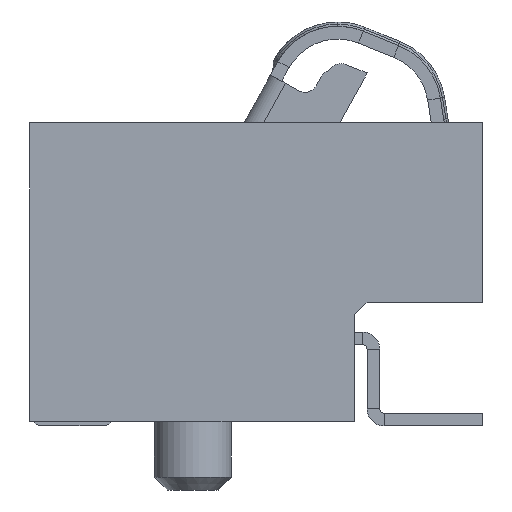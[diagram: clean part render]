
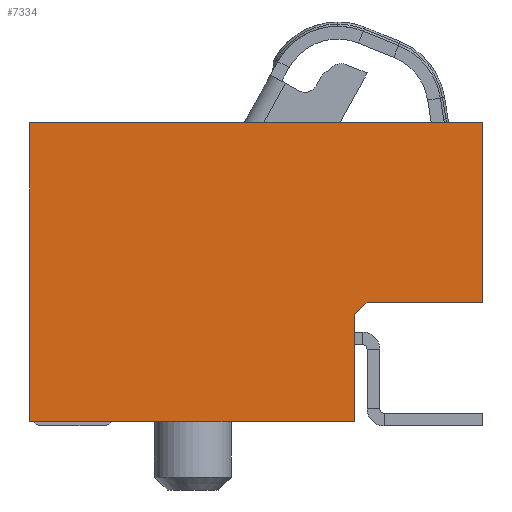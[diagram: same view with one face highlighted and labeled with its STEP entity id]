
A CAD part, front view. The second image highlights one B-rep face of the part: STEP entity #7334.
In plain terms, the highlighted planar face has unit normal (0, -1, 0).
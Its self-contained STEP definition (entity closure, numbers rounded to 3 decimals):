
#38 = DIRECTION ( 'NONE',  ( 0.707, 0., 0.707 ) ) ;
#1055 = EDGE_CURVE ( 'NONE', #28813, #31256, #28866, .T. ) ;
#1123 = DIRECTION ( 'NONE',  ( 0., 0., -1. ) ) ;
#1787 = VERTEX_POINT ( 'NONE', #19656 ) ;
#1899 = ORIENTED_EDGE ( 'NONE', *, *, #20858, .F. ) ;
#2260 = VECTOR ( 'NONE', #5691, 1000. ) ;
#2769 = CARTESIAN_POINT ( 'NONE',  ( -1.293, -4.186, 2.4 ) ) ;
#3070 = VERTEX_POINT ( 'NONE', #5394 ) ;
#3104 = EDGE_CURVE ( 'NONE', #1787, #3070, #30066, .T. ) ;
#3700 = LINE ( 'NONE', #23235, #31034 ) ;
#4809 = ORIENTED_EDGE ( 'NONE', *, *, #5987, .F. ) ;
#5394 = CARTESIAN_POINT ( 'NONE',  ( -5.243, -4.186, 1. ) ) ;
#5542 = VERTEX_POINT ( 'NONE', #24681 ) ;
#5691 = DIRECTION ( 'NONE',  ( 0., 0., -1. ) ) ;
#5987 = EDGE_CURVE ( 'NONE', #1787, #5542, #14404, .T. ) ;
#6115 = CARTESIAN_POINT ( 'NONE',  ( -1.443, -4.186, 2.4 ) ) ;
#6766 = DIRECTION ( 'NONE',  ( 1., 0., 0. ) ) ;
#7147 = CARTESIAN_POINT ( 'NONE',  ( -5.243, -4.186, 4.5 ) ) ;
#7334 = ADVANCED_FACE ( 'NONE', ( #14621 ), #19314, .F. ) ;
#7365 = CARTESIAN_POINT ( 'NONE',  ( -5.243, -4.186, 4. ) ) ;
#7380 = CARTESIAN_POINT ( 'NONE',  ( -1.443, -4.186, 1. ) ) ;
#8311 = CARTESIAN_POINT ( 'NONE',  ( -1.443, -4.186, 2.25 ) ) ;
#9511 = EDGE_CURVE ( 'NONE', #3070, #14611, #10457, .T. ) ;
#9568 = LINE ( 'NONE', #12486, #27070 ) ;
#9982 = VERTEX_POINT ( 'NONE', #8311 ) ;
#10192 = ORIENTED_EDGE ( 'NONE', *, *, #9511, .T. ) ;
#10457 = LINE ( 'NONE', #15143, #22335 ) ;
#10712 = VECTOR ( 'NONE', #29480, 1000. ) ;
#11906 = CARTESIAN_POINT ( 'NONE',  ( 0.057, -4.186, 2.4 ) ) ;
#12222 = DIRECTION ( 'NONE',  ( 0., 1., 0. ) ) ;
#12486 = CARTESIAN_POINT ( 'NONE',  ( -2.468, -4.186, 1.225 ) ) ;
#14404 = LINE ( 'NONE', #7147, #22347 ) ;
#14478 = VECTOR ( 'NONE', #6766, 1000. ) ;
#14611 = VERTEX_POINT ( 'NONE', #7380 ) ;
#14621 = FACE_OUTER_BOUND ( 'NONE', #30640, .T. ) ;
#15143 = CARTESIAN_POINT ( 'NONE',  ( -5.243, -4.186, 1. ) ) ;
#15196 = ORIENTED_EDGE ( 'NONE', *, *, #25538, .F. ) ;
#19314 = PLANE ( 'NONE',  #21345 ) ;
#19656 = CARTESIAN_POINT ( 'NONE',  ( -5.243, -4.186, 4.5 ) ) ;
#20211 = EDGE_CURVE ( 'NONE', #9982, #28813, #9568, .T. ) ;
#20858 = EDGE_CURVE ( 'NONE', #9982, #14611, #24495, .T. ) ;
#21345 = AXIS2_PLACEMENT_3D ( 'NONE', #7365, #12222, #24473 ) ;
#21591 = CARTESIAN_POINT ( 'NONE',  ( -1.443, -4.186, 2.4 ) ) ;
#22335 = VECTOR ( 'NONE', #22565, 1000. ) ;
#22347 = VECTOR ( 'NONE', #24582, 1000. ) ;
#22500 = CARTESIAN_POINT ( 'NONE',  ( -5.243, -4.186, 4. ) ) ;
#22565 = DIRECTION ( 'NONE',  ( 1., 0., 0. ) ) ;
#23235 = CARTESIAN_POINT ( 'NONE',  ( 0.057, -4.186, 4. ) ) ;
#24473 = DIRECTION ( 'NONE',  ( 1., 0., 0. ) ) ;
#24495 = LINE ( 'NONE', #21591, #10712 ) ;
#24582 = DIRECTION ( 'NONE',  ( 1., 0., 0. ) ) ;
#24681 = CARTESIAN_POINT ( 'NONE',  ( 0.057, -4.186, 4.5 ) ) ;
#24865 = ORIENTED_EDGE ( 'NONE', *, *, #1055, .T. ) ;
#25538 = EDGE_CURVE ( 'NONE', #5542, #31256, #3700, .T. ) ;
#27070 = VECTOR ( 'NONE', #38, 1000. ) ;
#28057 = ORIENTED_EDGE ( 'NONE', *, *, #3104, .T. ) ;
#28778 = ORIENTED_EDGE ( 'NONE', *, *, #20211, .T. ) ;
#28813 = VERTEX_POINT ( 'NONE', #2769 ) ;
#28866 = LINE ( 'NONE', #6115, #14478 ) ;
#29480 = DIRECTION ( 'NONE',  ( 0., 0., -1. ) ) ;
#30066 = LINE ( 'NONE', #22500, #2260 ) ;
#30640 = EDGE_LOOP ( 'NONE', ( #1899, #28778, #24865, #15196, #4809, #28057, #10192 ) ) ;
#31034 = VECTOR ( 'NONE', #1123, 1000. ) ;
#31256 = VERTEX_POINT ( 'NONE', #11906 ) ;
